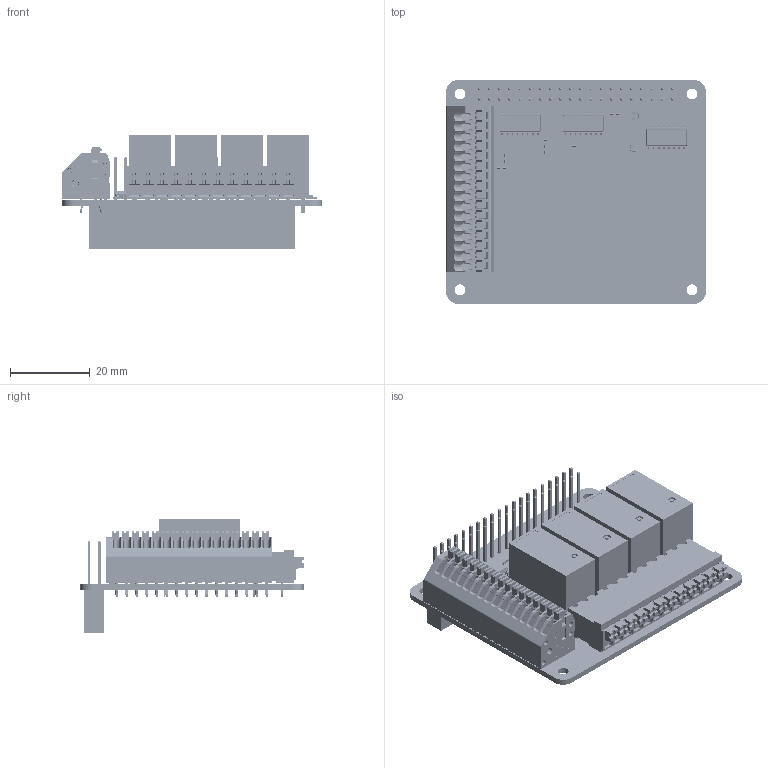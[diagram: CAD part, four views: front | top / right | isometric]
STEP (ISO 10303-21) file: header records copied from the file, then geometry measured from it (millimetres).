
FILE_DESCRIPTION(('FreeCAD Model'),'2;1');
FILE_NAME('Open CASCADE Shape Model','2026-04-26T17:49:32',(''),(''), 'Open CASCADE STEP processor 7.8','FreeCAD','Unknown');
FILE_SCHEMA(('AUTOMOTIVE_DESIGN { 1 0 10303 214 1 1 1 1 }'));
Length unit declared in the file: millimetre
Products named in the file (3): Unnamed; qPIO_PCB; Fusion
Assembly tree (2 placements, depth 2):
  Unnamed
    qPIO_PCB
    Fusion
Bounding box: 65 x 56.05 x 28.75 mm (x, y, z)
Volume: 29995.6 mm3; surface area: 31010.9 mm2
Topology: 174 solids, 174 shells, 13715 faces, 44173 edges, 31368 vertices
Faces by surface type: plane 11446, cylinder 1803, cone 362, bspline 104
Full cylindrical faces by diameter (mm): 0.104 x2, 0.326 x1, 0.327 x16, 1 x60, 1.15 x132, 1.2 x24, 1.3 x32, 1.65 x33, 1.78 x16, 2 x4, 2.7 x4
Entity records: 498054 total; most frequent: CARTESIAN_POINT 92814, ORIENTED_EDGE 88346, DIRECTION 81776, EDGE_CURVE 44173, LINE 32244, VECTOR 32244, VERTEX_POINT 31368, AXIS2_PLACEMENT_3D 24766
